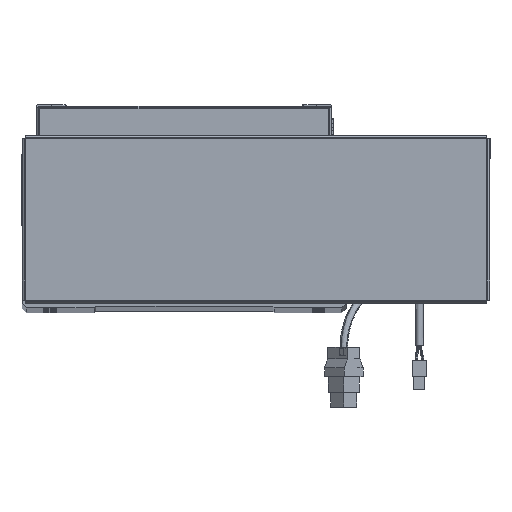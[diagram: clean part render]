
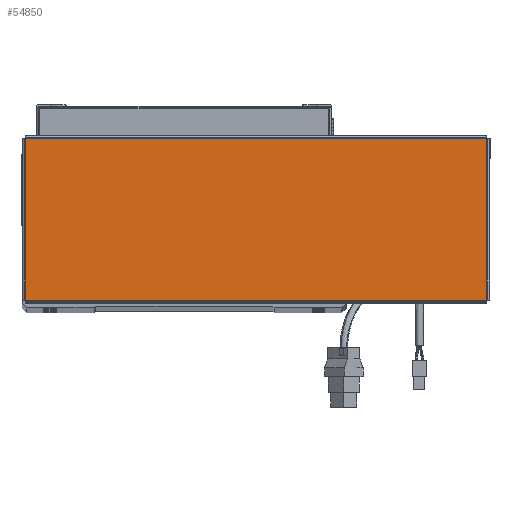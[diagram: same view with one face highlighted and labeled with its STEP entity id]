
A CAD part, top view. The second image highlights one B-rep face of the part: STEP entity #54850.
In plain terms, the highlighted planar face has unit normal (0, 0, 1).
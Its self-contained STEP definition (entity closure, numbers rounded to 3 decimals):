
#1834 = CARTESIAN_POINT ( 'NONE',  ( -156.543, -54.763, 0. ) ) ;
#2316 = CARTESIAN_POINT ( 'NONE',  ( 156.543, 54.763, 0. ) ) ;
#3114 = VECTOR ( 'NONE', #7951, 1000. ) ;
#7951 = DIRECTION ( 'NONE',  ( -1., 0., 0. ) ) ;
#9478 = VERTEX_POINT ( 'NONE', #32665 ) ;
#14445 = LINE ( 'NONE', #1834, #51407 ) ;
#15285 = DIRECTION ( 'NONE',  ( 0., -1., 0. ) ) ;
#18299 = LINE ( 'NONE', #37107, #21677 ) ;
#21146 = VERTEX_POINT ( 'NONE', #37533 ) ;
#21677 = VECTOR ( 'NONE', #15285, 1000. ) ;
#21809 = CARTESIAN_POINT ( 'NONE',  ( -156.513, -54.763, 0. ) ) ;
#23768 = VECTOR ( 'NONE', #52839, 1000. ) ;
#26353 = LINE ( 'NONE', #58216, #23768 ) ;
#29341 = FACE_OUTER_BOUND ( 'NONE', #51028, .T. ) ;
#30014 = LINE ( 'NONE', #2316, #3114 ) ;
#32665 = CARTESIAN_POINT ( 'NONE',  ( -156.513, 54.763, 0. ) ) ;
#35456 = EDGE_CURVE ( 'NONE', #51943, #38878, #14445, .T. ) ;
#36258 = DIRECTION ( 'NONE',  ( 0., 0., 1. ) ) ;
#36352 = ORIENTED_EDGE ( 'NONE', *, *, #59712, .T. ) ;
#37107 = CARTESIAN_POINT ( 'NONE',  ( -156.513, 54.793, 0. ) ) ;
#37533 = CARTESIAN_POINT ( 'NONE',  ( 156.513, 54.763, 0. ) ) ;
#38549 = ORIENTED_EDGE ( 'NONE', *, *, #62738, .T. ) ;
#38878 = VERTEX_POINT ( 'NONE', #65887 ) ;
#43091 = ORIENTED_EDGE ( 'NONE', *, *, #35456, .T. ) ;
#51028 = EDGE_LOOP ( 'NONE', ( #43091, #36352, #38549, #68857 ) ) ;
#51407 = VECTOR ( 'NONE', #61054, 1000. ) ;
#51943 = VERTEX_POINT ( 'NONE', #21809 ) ;
#52839 = DIRECTION ( 'NONE',  ( 0., 1., 0. ) ) ;
#54850 = ADVANCED_FACE ( 'NONE', ( #29341 ), #68984, .T. ) ;
#55517 = EDGE_CURVE ( 'NONE', #9478, #51943, #18299, .T. ) ;
#58216 = CARTESIAN_POINT ( 'NONE',  ( 156.513, -54.793, 0. ) ) ;
#58345 = CARTESIAN_POINT ( 'NONE',  ( 0., 0., 0. ) ) ;
#59712 = EDGE_CURVE ( 'NONE', #38878, #21146, #26353, .T. ) ;
#61054 = DIRECTION ( 'NONE',  ( 1., 0., 0. ) ) ;
#62614 = DIRECTION ( 'NONE',  ( 1., 0., 0. ) ) ;
#62738 = EDGE_CURVE ( 'NONE', #21146, #9478, #30014, .T. ) ;
#64315 = AXIS2_PLACEMENT_3D ( 'NONE', #58345, #36258, #62614 ) ;
#65887 = CARTESIAN_POINT ( 'NONE',  ( 156.513, -54.763, 0. ) ) ;
#68857 = ORIENTED_EDGE ( 'NONE', *, *, #55517, .T. ) ;
#68984 = PLANE ( 'NONE',  #64315 ) ;
